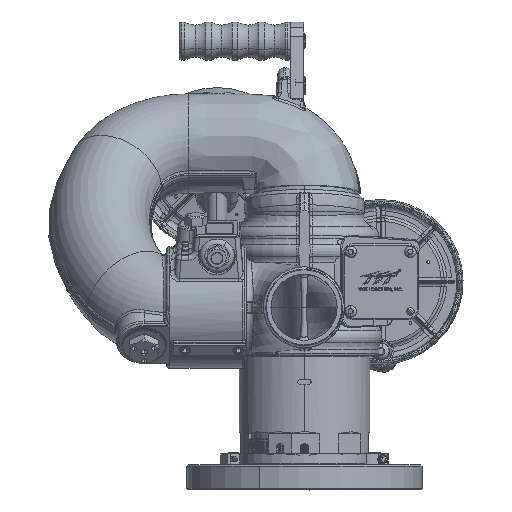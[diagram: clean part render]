
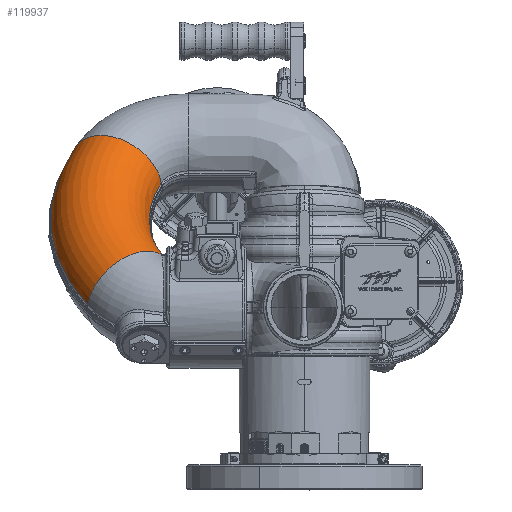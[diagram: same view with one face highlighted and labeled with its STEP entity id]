
A CAD part, top view. The second image highlights one B-rep face of the part: STEP entity #119937.
In plain terms, the highlighted toroidal (fillet/blend) face has major radius 177.8 mm and minor radius 47.625 mm.
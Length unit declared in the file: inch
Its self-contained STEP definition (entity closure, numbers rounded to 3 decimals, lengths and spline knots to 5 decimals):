
#30 = CARTESIAN_POINT ( 'NONE',  ( -5.40846, 6.53053, 1.87393 ) ) ;
#2831 = EDGE_CURVE ( 'NONE', #26495, #78358, #43484, .T. ) ;
#6234 = CARTESIAN_POINT ( 'NONE',  ( -5.36419, 3.78367, 5.54475 ) ) ;
#9017 = CARTESIAN_POINT ( 'NONE',  ( -5.41843, 3.83215, 6.20855 ) ) ;
#10825 = CARTESIAN_POINT ( 'NONE',  ( -5.41833, 3.85215, 6.04527 ) ) ;
#15755 = VERTEX_POINT ( 'NONE', #166739 ) ;
#18134 = CIRCLE ( 'NONE', #85648, 1.875 ) ;
#20182 = VERTEX_POINT ( 'NONE', #37594 ) ;
#20533 = CARTESIAN_POINT ( 'NONE',  ( -5.38843, 3.83068, 5.71581 ) ) ;
#22834 = VERTEX_POINT ( 'NONE', #29248 ) ;
#26495 = VERTEX_POINT ( 'NONE', #86003 ) ;
#27750 = CARTESIAN_POINT ( 'NONE',  ( -5.41975, 3.84606, 6.11226 ) ) ;
#28464 = ORIENTED_EDGE ( 'NONE', *, *, #2831, .T. ) ;
#29248 = CARTESIAN_POINT ( 'NONE',  ( -5.41936, 3.83995, 6.15668 ) ) ;
#34564 = DIRECTION ( 'NONE',  ( 0., -0.669, 0.743 ) ) ;
#36374 = CARTESIAN_POINT ( 'NONE',  ( -5.41532, 3.85537, 5.97848 ) ) ;
#37594 = CARTESIAN_POINT ( 'NONE',  ( -8.79264, 7.54713, 0.73773 ) ) ;
#38980 = VERTEX_POINT ( 'NONE', #64596 ) ;
#41278 = AXIS2_PLACEMENT_3D ( 'NONE', #49779, #74454, #63533 ) ;
#43484 = CIRCLE ( 'NONE', #162910, 5.14447 ) ;
#44551 = CARTESIAN_POINT ( 'NONE',  ( -5.39124, 3.83484, 5.73747 ) ) ;
#45119 = CARTESIAN_POINT ( 'NONE',  ( -5.34611, 3.73289, 5.42323 ) ) ;
#45698 = CARTESIAN_POINT ( 'NONE',  ( -5.31998, 3.62431, 5.2331 ) ) ;
#46256 = CARTESIAN_POINT ( 'NONE',  ( -5.37046, 3.79792, 5.58687 ) ) ;
#47899 = CARTESIAN_POINT ( 'NONE',  ( -5.41642, 3.81349, 6.31177 ) ) ;
#49779 = CARTESIAN_POINT ( 'NONE',  ( -7.10024, 6.84021, 1.12718 ) ) ;
#56040 = CIRCLE ( 'NONE', #41278, 1.875 ) ;
#58828 = CARTESIAN_POINT ( 'NONE',  ( -5.35202, 3.75118, 5.46301 ) ) ;
#58872 = EDGE_LOOP ( 'NONE', ( #150998, #90611, #28464, #164803, #145538, #156333 ) ) ;
#60958 = CARTESIAN_POINT ( 'NONE',  ( -0.718, 5.1166, 3.44426 ) ) ;
#63533 = DIRECTION ( 'NONE',  ( 0., 0.743, 0.669 ) ) ;
#64596 = CARTESIAN_POINT ( 'NONE',  ( -5.41642, 3.81349, 6.31177 ) ) ;
#70613 = AXIS2_PLACEMENT_3D ( 'NONE', #98106, #164384, #34564 ) ;
#70742 = CIRCLE ( 'NONE', #108478, 8.85622 ) ;
#70836 = TOROIDAL_SURFACE ( 'NONE', #70613, 7., 1.875 ) ;
#72509 = CARTESIAN_POINT ( 'NONE',  ( -5.41976, 3.84328, 6.1345 ) ) ;
#72583 = CARTESIAN_POINT ( 'NONE',  ( -5.3295, 3.6723, 5.30681 ) ) ;
#74454 = DIRECTION ( 'NONE',  ( 0.411, 0.61, -0.678 ) ) ;
#78358 = VERTEX_POINT ( 'NONE', #30 ) ;
#85648 = AXIS2_PLACEMENT_3D ( 'NONE', #144612, #157811, #129865 ) ;
#86003 = CARTESIAN_POINT ( 'NONE',  ( -5.31335, 3.56913, 5.16289 ) ) ;
#86577 = CARTESIAN_POINT ( 'NONE',  ( -5.41936, 3.83995, 6.15668 ) ) ;
#90611 = ORIENTED_EDGE ( 'NONE', *, *, #131111, .T. ) ;
#96101 = EDGE_CURVE ( 'NONE', #38980, #22834, #169845, .T. ) ;
#97630 = DIRECTION ( 'NONE',  ( 0., -0.669, 0.743 ) ) ;
#97776 = CARTESIAN_POINT ( 'NONE',  ( -5.31335, 3.56913, 5.16289 ) ) ;
#98106 = CARTESIAN_POINT ( 'NONE',  ( -0.718, 4.91629, 3.26391 ) ) ;
#100848 = EDGE_CURVE ( 'NONE', #15755, #38980, #18134, .T. ) ;
#106433 = DIRECTION ( 'NONE',  ( 0., -0.669, 0.743 ) ) ;
#108478 = AXIS2_PLACEMENT_3D ( 'NONE', #142964, #169342, #106433 ) ;
#108818 = CARTESIAN_POINT ( 'NONE',  ( -5.41213, 3.85522, 5.93425 ) ) ;
#119937 = ADVANCED_FACE ( 'NONE', ( #136250 ), #70836, .T. ) ;
#122834 = EDGE_CURVE ( 'NONE', #20182, #78358, #56040, .T. ) ;
#123518 = CARTESIAN_POINT ( 'NONE',  ( -5.37961, 3.81578, 5.65102 ) ) ;
#128316 = B_SPLINE_CURVE_WITH_KNOTS ( 'NONE', 3,
 ( #86577, #72509, #27750, #168465, #10825, #36374, #108818, #148710, #150826, #44551, #20533, #136601, #123518, #46256, #6234, #58828, #45119, #72583, #45698, #97776 ),
 .UNSPECIFIED., .F., .F.,
 ( 4, 2, 2, 2, 2, 2, 2, 2, 2, 4 ),
 ( 0., 0.00171, 0.00342, 0.00683, 0.01025, 0.01195, 0.01366, 0.01708, 0.02049, 0.02732 ),
 .UNSPECIFIED. ) ;
#129865 = DIRECTION ( 'NONE',  ( 0., 0.743, 0.669 ) ) ;
#131111 = EDGE_CURVE ( 'NONE', #22834, #26495, #128316, .T. ) ;
#136250 = FACE_OUTER_BOUND ( 'NONE', #58872, .T. ) ;
#136601 = CARTESIAN_POINT ( 'NONE',  ( -5.38262, 3.82115, 5.6726 ) ) ;
#138843 = CARTESIAN_POINT ( 'NONE',  ( -5.41745, 3.8233, 6.26025 ) ) ;
#140507 = CARTESIAN_POINT ( 'NONE',  ( -5.41936, 3.83995, 6.15668 ) ) ;
#142964 = CARTESIAN_POINT ( 'NONE',  ( -0.718, 5.11304, 3.44106 ) ) ;
#144612 = CARTESIAN_POINT ( 'NONE',  ( -6.61621, 2.39384, 6.06538 ) ) ;
#145538 = ORIENTED_EDGE ( 'NONE', *, *, #162225, .T. ) ;
#148710 = CARTESIAN_POINT ( 'NONE',  ( -5.40411, 3.8503, 5.84634 ) ) ;
#150826 = CARTESIAN_POINT ( 'NONE',  ( -5.39928, 3.84554, 5.80264 ) ) ;
#150998 = ORIENTED_EDGE ( 'NONE', *, *, #96101, .T. ) ;
#152385 = DIRECTION ( 'NONE',  ( 0., -0.743, -0.669 ) ) ;
#156333 = ORIENTED_EDGE ( 'NONE', *, *, #100848, .T. ) ;
#157811 = DIRECTION ( 'NONE',  ( -0.539, 0.564, -0.626 ) ) ;
#162225 = EDGE_CURVE ( 'NONE', #20182, #15755, #70742, .T. ) ;
#162910 = AXIS2_PLACEMENT_3D ( 'NONE', #60958, #152385, #97630 ) ;
#164384 = DIRECTION ( 'NONE',  ( 0., -0.743, -0.669 ) ) ;
#164803 = ORIENTED_EDGE ( 'NONE', *, *, #122834, .F. ) ;
#166739 = CARTESIAN_POINT ( 'NONE',  ( -8.18027, 1.92169, 6.98541 ) ) ;
#168465 = CARTESIAN_POINT ( 'NONE',  ( -5.41904, 3.8505, 6.06765 ) ) ;
#169342 = DIRECTION ( 'NONE',  ( 0., 0.743, 0.669 ) ) ;
#169845 = B_SPLINE_CURVE_WITH_KNOTS ( 'NONE', 3,
 ( #47899, #138843, #9017, #140507 ),
 .UNSPECIFIED., .F., .F.,
 ( 4, 4 ),
 ( 0., 0.004 ),
 .UNSPECIFIED. ) ;
